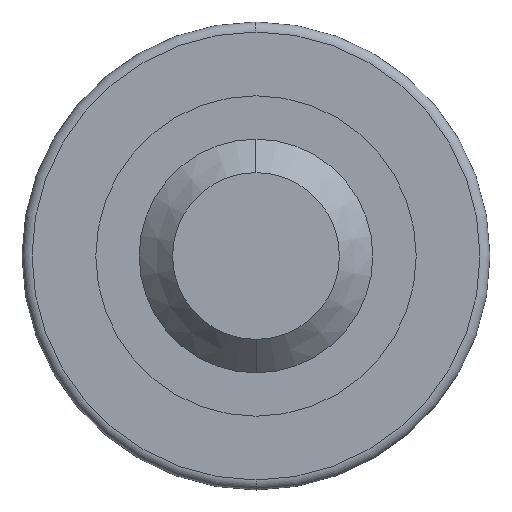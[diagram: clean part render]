
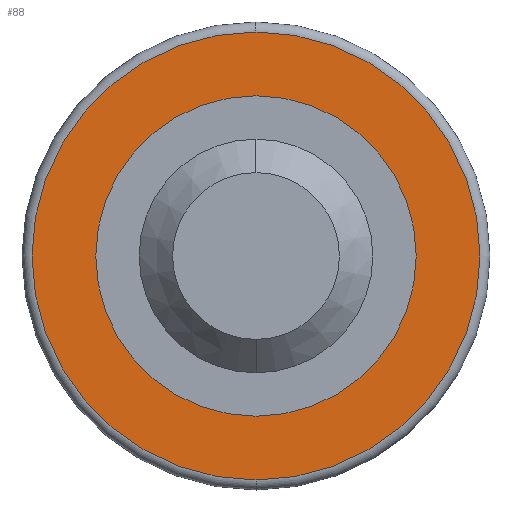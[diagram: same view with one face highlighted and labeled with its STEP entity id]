
A CAD part, left-side view. The second image highlights one B-rep face of the part: STEP entity #88.
In plain terms, the highlighted planar face has unit normal (-1, 0, 0).
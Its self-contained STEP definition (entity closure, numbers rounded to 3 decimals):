
#20 = ORIENTED_EDGE ( 'NONE', *, *, #289, .T. ) ;
#70 = EDGE_LOOP ( 'NONE', ( #20, #359 ) ) ;
#76 = ORIENTED_EDGE ( 'NONE', *, *, #729, .F. ) ;
#88 = ADVANCED_FACE ( 'NONE', ( #473, #474 ), #475, .T. ) ;
#108 = VERTEX_POINT ( 'NONE', #242 ) ;
#114 = ORIENTED_EDGE ( 'NONE', *, *, #154, .F. ) ;
#122 = VERTEX_POINT ( 'NONE', #332 ) ;
#131 = VERTEX_POINT ( 'NONE', #379 ) ;
#154 = EDGE_CURVE ( 'NONE', #131, #108, #559, .T. ) ;
#160 = VERTEX_POINT ( 'NONE', #569 ) ;
#184 = EDGE_LOOP ( 'NONE', ( #114, #76 ) ) ;
#242 = CARTESIAN_POINT ( 'NONE',  ( 14.5, 0., 33.55 ) ) ;
#289 = EDGE_CURVE ( 'NONE', #160, #122, #305, .T. ) ;
#305 = CIRCLE ( 'NONE', #308, 24. ) ;
#308 = AXIS2_PLACEMENT_3D ( 'NONE', #309, #310, #311 ) ;
#309 = CARTESIAN_POINT ( 'NONE',  ( 14.5, 0., 0. ) ) ;
#310 = DIRECTION ( 'NONE',  ( 1., 0., 0. ) ) ;
#311 = DIRECTION ( 'NONE',  ( 0., 0., -1. ) ) ;
#322 = CIRCLE ( 'NONE', #323, 33.55 ) ;
#323 = AXIS2_PLACEMENT_3D ( 'NONE', #327, #328, #329 ) ;
#327 = CARTESIAN_POINT ( 'NONE',  ( 14.5, 0., 0. ) ) ;
#328 = DIRECTION ( 'NONE',  ( 1., 0., 0. ) ) ;
#329 = DIRECTION ( 'NONE',  ( 0., 0., -1. ) ) ;
#332 = CARTESIAN_POINT ( 'NONE',  ( 14.5, 0., 24. ) ) ;
#359 = ORIENTED_EDGE ( 'NONE', *, *, #534, .T. ) ;
#379 = CARTESIAN_POINT ( 'NONE',  ( 14.5, 0., -33.55 ) ) ;
#473 = FACE_BOUND ( 'NONE', #70, .T. ) ;
#474 = FACE_OUTER_BOUND ( 'NONE', #184, .T. ) ;
#475 = PLANE ( 'NONE',  #476 ) ;
#476 = AXIS2_PLACEMENT_3D ( 'NONE', #477, #478, #479 ) ;
#477 = CARTESIAN_POINT ( 'NONE',  ( 14.5, 24., 0. ) ) ;
#478 = DIRECTION ( 'NONE',  ( -1., 0., 0. ) ) ;
#479 = DIRECTION ( 'NONE',  ( 0., 0., 1. ) ) ;
#500 = CIRCLE ( 'NONE', #501, 24. ) ;
#501 = AXIS2_PLACEMENT_3D ( 'NONE', #502, #503, #504 ) ;
#502 = CARTESIAN_POINT ( 'NONE',  ( 14.5, 0., 0. ) ) ;
#503 = DIRECTION ( 'NONE',  ( 1., 0., 0. ) ) ;
#504 = DIRECTION ( 'NONE',  ( 0., 0., -1. ) ) ;
#534 = EDGE_CURVE ( 'NONE', #122, #160, #500, .T. ) ;
#559 = CIRCLE ( 'NONE', #560, 33.55 ) ;
#560 = AXIS2_PLACEMENT_3D ( 'NONE', #561, #562, #563 ) ;
#561 = CARTESIAN_POINT ( 'NONE',  ( 14.5, 0., 0. ) ) ;
#562 = DIRECTION ( 'NONE',  ( 1., 0., 0. ) ) ;
#563 = DIRECTION ( 'NONE',  ( 0., 0., -1. ) ) ;
#569 = CARTESIAN_POINT ( 'NONE',  ( 14.5, 0., -24. ) ) ;
#729 = EDGE_CURVE ( 'NONE', #108, #131, #322, .T. ) ;
